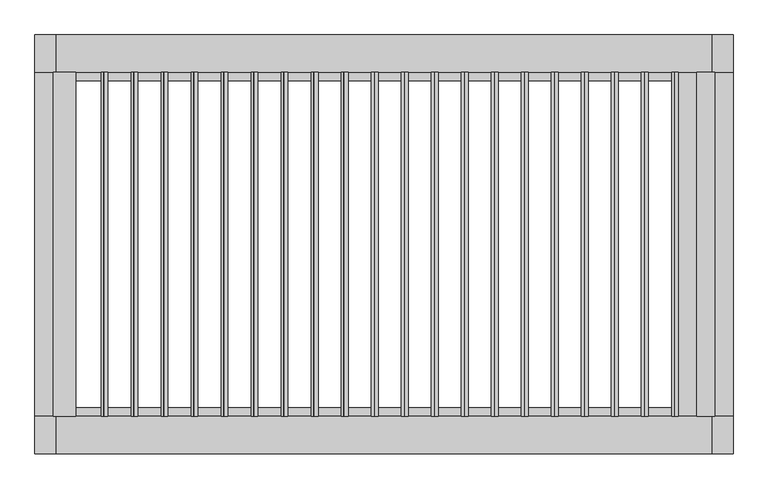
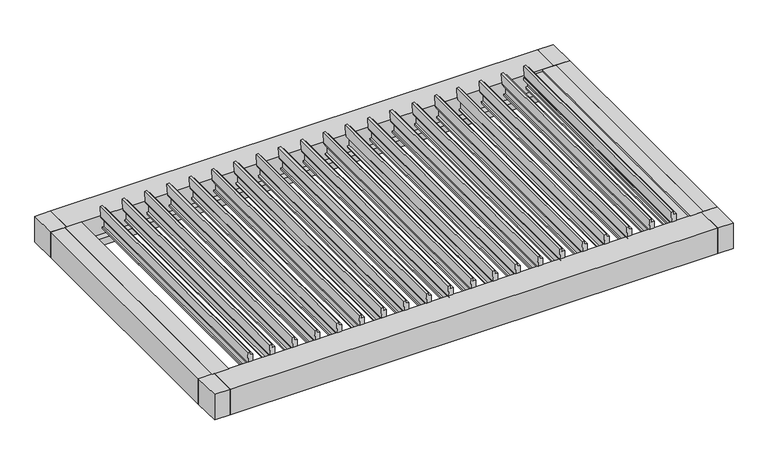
"""IFC4 building model written with IfcOpenShell, lengths in millimetres: proxy geometry, Renson_Aero_Skye_Patio covers : Aero Skye - Single."""

from ifc_helpers import new_model, si_unit, point, frame, frame_2d, origin, place, context, project, spatial, polyline, circle_curve, trimmed, segment, composite_curve, outline, extrude, source, transform, mapped, element, save


def generic_models_4a002583(model_context):
    return source(origin(), model_context, "Body", "SweptSolid", [
        extrude(outline(composite_curve([segment(polyline([(69.449345, 1892.5320108), (71.8694547, 1864.8700309), (100.7047051, 1863.4849745), (97.2673741, 1843.9909012), (-12.7297408, 1849.2744415)]), True, "CONTINUOUS"), segment(trimmed(circle_curve(frame_2d((-12.0100689, 1864.2571673)), 15.0), [point((-12.7297408, 1849.2744415))], [point((-26.7821852, 1861.6524447))], False, "CARTESIAN"), True, "CONTINUOUS"), segment(polyline([(-26.7821852, 1861.6524447), (-30.1728765, 1880.8820108), (-117.9086525, 1880.8820108), (-120.9201099, 1863.8031872), (-136.1970804, 1864.5369927), (-138.6463271, 1892.5320108), (69.449345, 1892.5320108)]), True, "CONTINUOUS")], self_intersect=False)), frame((0.0, -1232.0, 0.0), z_axis=(0.0, 1.0, 0.0), x_axis=(0.0, 0.0, 1.0)), (0.0, 0.0, 1.0), 2464.0),
        extrude(outline(composite_curve([segment(polyline([(69.449345, 1677.5229121), (71.8694547, 1649.8609321), (100.7047051, 1648.4758757), (97.2673741, 1628.9818025), (-12.7297408, 1634.2653428)]), True, "CONTINUOUS"), segment(trimmed(circle_curve(frame_2d((-12.0100689, 1649.2480686)), 15.0), [point((-12.7297408, 1634.2653428))], [point((-26.7821852, 1646.6433459))], False, "CARTESIAN"), True, "CONTINUOUS"), segment(polyline([(-26.7821852, 1646.6433459), (-30.1728765, 1665.8729121), (-117.9086525, 1665.8729121), (-120.9201099, 1648.7940884), (-136.1970804, 1649.5278939), (-138.6463271, 1677.5229121), (69.449345, 1677.5229121)]), True, "CONTINUOUS")], self_intersect=False)), frame((0.0, -1232.0, 0.0), z_axis=(0.0, 1.0, 0.0), x_axis=(0.0, 0.0, 1.0)), (0.0, 0.0, 1.0), 2464.0),
        extrude(outline(composite_curve([segment(polyline([(69.449345, 1462.5138133), (71.8694547, 1434.8518333), (100.7047051, 1433.4667769), (97.2673741, 1413.9727037), (-12.7297408, 1419.256244)]), True, "CONTINUOUS"), segment(trimmed(circle_curve(frame_2d((-12.0100689, 1434.2389698)), 15.0), [point((-12.7297408, 1419.256244))], [point((-26.7821852, 1431.6342472))], False, "CARTESIAN"), True, "CONTINUOUS"), segment(polyline([(-26.7821852, 1431.6342472), (-30.1728765, 1450.8638133), (-117.9086525, 1450.8638133), (-120.9201099, 1433.7849896), (-136.1970804, 1434.5187951), (-138.6463271, 1462.5138133), (69.449345, 1462.5138133)]), True, "CONTINUOUS")], self_intersect=False)), frame((0.0, -1232.0, 0.0), z_axis=(0.0, 1.0, 0.0), x_axis=(0.0, 0.0, 1.0)), (0.0, 0.0, 1.0), 2464.0),
        extrude(outline(composite_curve([segment(polyline([(69.449345, 1247.5047146), (71.8694547, 1219.8427346), (100.7047051, 1218.4576782), (97.2673741, 1198.9636049), (-12.7297408, 1204.2471453)]), True, "CONTINUOUS"), segment(trimmed(circle_curve(frame_2d((-12.0100689, 1219.2298711)), 15.0), [point((-12.7297408, 1204.2471453))], [point((-26.7821852, 1216.6251484))], False, "CARTESIAN"), True, "CONTINUOUS"), segment(polyline([(-26.7821852, 1216.6251484), (-30.1728765, 1235.8547145), (-117.9086525, 1235.8547145), (-120.9201099, 1218.7758909), (-136.1970804, 1219.5096964), (-138.6463271, 1247.5047146), (69.449345, 1247.5047146)]), True, "CONTINUOUS")], self_intersect=False)), frame((0.0, -1232.0, 0.0), z_axis=(0.0, 1.0, 0.0), x_axis=(0.0, 0.0, 1.0)), (0.0, 0.0, 1.0), 2464.0),
        extrude(outline(composite_curve([segment(polyline([(69.449345, 1032.4956158), (71.8694547, 1004.8336358), (100.7047051, 1003.4485794), (97.2673741, 983.9545062), (-12.7297408, 989.2380465)]), True, "CONTINUOUS"), segment(trimmed(circle_curve(frame_2d((-12.0100689, 1004.2207723)), 15.0), [point((-12.7297408, 989.2380465))], [point((-26.7821852, 1001.6160496))], False, "CARTESIAN"), True, "CONTINUOUS"), segment(polyline([(-26.7821852, 1001.6160496), (-30.1728765, 1020.8456158), (-117.9086525, 1020.8456158), (-120.9201099, 1003.7667921), (-136.1970804, 1004.5005976), (-138.6463271, 1032.4956158), (69.449345, 1032.4956158)]), True, "CONTINUOUS")], self_intersect=False)), frame((0.0, -1232.0, 0.0), z_axis=(0.0, 1.0, 0.0), x_axis=(0.0, 0.0, 1.0)), (0.0, 0.0, 1.0), 2464.0),
        extrude(outline(composite_curve([segment(polyline([(69.449345, 817.486517), (71.8694547, 789.8245371), (100.7047051, 788.4394807), (97.2673741, 768.9454074), (-12.7297408, 774.2289477)]), True, "CONTINUOUS"), segment(trimmed(circle_curve(frame_2d((-12.0100689, 789.2116735)), 15.0), [point((-12.7297408, 774.2289477))], [point((-26.7821852, 786.6069509))], False, "CARTESIAN"), True, "CONTINUOUS"), segment(polyline([(-26.7821852, 786.6069509), (-30.1728765, 805.836517), (-117.9086525, 805.836517), (-120.9201099, 788.7576933), (-136.1970804, 789.4914989), (-138.6463271, 817.486517), (69.449345, 817.486517)]), True, "CONTINUOUS")], self_intersect=False)), frame((0.0, -1232.0, 0.0), z_axis=(0.0, 1.0, 0.0), x_axis=(0.0, 0.0, 1.0)), (0.0, 0.0, 1.0), 2464.0),
        extrude(outline(composite_curve([segment(polyline([(69.449345, 602.4774183), (71.8694547, 574.8154383), (100.7047051, 573.4303819), (97.2673741, 553.9363087), (-12.7297408, 559.219849)]), True, "CONTINUOUS"), segment(trimmed(circle_curve(frame_2d((-12.0100689, 574.2025748)), 15.0), [point((-12.7297408, 559.219849))], [point((-26.7821852, 571.5978521))], False, "CARTESIAN"), True, "CONTINUOUS"), segment(polyline([(-26.7821852, 571.5978521), (-30.1728765, 590.8274183), (-117.9086525, 590.8274183), (-120.9201099, 573.7485946), (-136.1970804, 574.4824001), (-138.6463271, 602.4774183), (69.449345, 602.4774183)]), True, "CONTINUOUS")], self_intersect=False)), frame((0.0, -1232.0, 0.0), z_axis=(0.0, 1.0, 0.0), x_axis=(0.0, 0.0, 1.0)), (0.0, 0.0, 1.0), 2464.0),
        extrude(outline(composite_curve([segment(polyline([(69.449345, 387.4683195), (71.8694547, 359.8063395), (100.7047051, 358.4212831), (97.2673741, 338.9272099), (-12.7297408, 344.2107502)]), True, "CONTINUOUS"), segment(trimmed(circle_curve(frame_2d((-12.0100689, 359.193476)), 15.0), [point((-12.7297408, 344.2107502))], [point((-26.7821852, 356.5887533))], False, "CARTESIAN"), True, "CONTINUOUS"), segment(polyline([(-26.7821852, 356.5887533), (-30.1728765, 375.8183195), (-117.9086525, 375.8183195), (-120.9201099, 358.7394958), (-136.1970804, 359.4733013), (-138.6463271, 387.4683195), (69.449345, 387.4683195)]), True, "CONTINUOUS")], self_intersect=False)), frame((0.0, -1232.0, 0.0), z_axis=(0.0, 1.0, 0.0), x_axis=(0.0, 0.0, 1.0)), (0.0, 0.0, 1.0), 2464.0),
        extrude(outline(composite_curve([segment(polyline([(69.449345, 172.4592207), (71.8694547, 144.7972408), (100.7047051, 143.4121844), (97.2673741, 123.9181111), (-12.7297408, 129.2016514)]), True, "CONTINUOUS"), segment(trimmed(circle_curve(frame_2d((-12.0100689, 144.1843772)), 15.0), [point((-12.7297408, 129.2016514))], [point((-26.7821852, 141.5796546))], False, "CARTESIAN"), True, "CONTINUOUS"), segment(polyline([(-26.7821852, 141.5796546), (-30.1728765, 160.8092207), (-117.9086525, 160.8092207), (-120.9201099, 143.7303971), (-136.1970804, 144.4642026), (-138.6463271, 172.4592207), (69.449345, 172.4592207)]), True, "CONTINUOUS")], self_intersect=False)), frame((0.0, -1232.0, 0.0), z_axis=(0.0, 1.0, 0.0), x_axis=(0.0, 0.0, 1.0)), (0.0, 0.0, 1.0), 2464.0),
        extrude(outline(composite_curve([segment(polyline([(69.449345, -42.549878), (71.8694547, -70.211858), (100.7047051, -71.5969144), (97.2673741, -91.0909876), (-12.7297408, -85.8074473)]), True, "CONTINUOUS"), segment(trimmed(circle_curve(frame_2d((-12.0100689, -70.8247215)), 15.0), [point((-12.7297408, -85.8074473))], [point((-26.7821852, -73.4294442))], False, "CARTESIAN"), True, "CONTINUOUS"), segment(polyline([(-26.7821852, -73.4294442), (-30.1728765, -54.199878), (-117.9086525, -54.199878), (-120.9201099, -71.2787017), (-136.1970804, -70.5448962), (-138.6463271, -42.549878), (69.449345, -42.549878)]), True, "CONTINUOUS")], self_intersect=False)), frame((0.0, -1232.0, 0.0), z_axis=(0.0, 1.0, 0.0), x_axis=(0.0, 0.0, 1.0)), (0.0, 0.0, 1.0), 2464.0),
        extrude(outline(composite_curve([segment(polyline([(69.449345, -257.5589768), (71.8694547, -285.2209568), (100.7047051, -286.6060132), (97.2673741, -306.1000864), (-12.7297408, -300.8165461)]), True, "CONTINUOUS"), segment(trimmed(circle_curve(frame_2d((-12.0100689, -285.8338203)), 15.0), [point((-12.7297408, -300.8165461))], [point((-26.7821852, -288.438543))], False, "CARTESIAN"), True, "CONTINUOUS"), segment(polyline([(-26.7821852, -288.438543), (-30.1728765, -269.2089768), (-117.9086525, -269.2089768), (-120.9201099, -286.2878005), (-136.1970804, -285.553995), (-138.6463271, -257.5589768), (69.449345, -257.5589768)]), True, "CONTINUOUS")], self_intersect=False)), frame((0.0, -1232.0, 0.0), z_axis=(0.0, 1.0, 0.0), x_axis=(0.0, 0.0, 1.0)), (0.0, 0.0, 1.0), 2464.0),
        extrude(outline(composite_curve([segment(polyline([(69.449345, -472.5680756), (71.8694547, -500.2300555), (100.7047051, -501.6151119), (97.2673741, -521.1091852), (-12.7297408, -515.8256449)]), True, "CONTINUOUS"), segment(trimmed(circle_curve(frame_2d((-12.0100689, -500.8429191)), 15.0), [point((-12.7297408, -515.8256449))], [point((-26.7821852, -503.4476417))], False, "CARTESIAN"), True, "CONTINUOUS"), segment(polyline([(-26.7821852, -503.4476417), (-30.1728765, -484.2180756), (-117.9086525, -484.2180756), (-120.9201099, -501.2968992), (-136.1970804, -500.5630937), (-138.6463271, -472.5680756), (69.449345, -472.5680756)]), True, "CONTINUOUS")], self_intersect=False)), frame((0.0, -1232.0, 0.0), z_axis=(0.0, 1.0, 0.0), x_axis=(0.0, 0.0, 1.0)), (0.0, 0.0, 1.0), 2464.0),
        extrude(outline(composite_curve([segment(polyline([(69.449345, -687.5771743), (71.8694547, -715.2391543), (100.7047051, -716.6242107), (97.2673741, -736.1182839), (-12.7297408, -730.8347436)]), True, "CONTINUOUS"), segment(trimmed(circle_curve(frame_2d((-12.0100689, -715.8520178)), 15.0), [point((-12.7297408, -730.8347436))], [point((-26.7821852, -718.4567405))], False, "CARTESIAN"), True, "CONTINUOUS"), segment(polyline([(-26.7821852, -718.4567405), (-30.1728765, -699.2271743), (-117.9086525, -699.2271743), (-120.9201099, -716.305998), (-136.1970804, -715.5721925), (-138.6463271, -687.5771743), (69.449345, -687.5771743)]), True, "CONTINUOUS")], self_intersect=False)), frame((0.0, -1232.0, 0.0), z_axis=(0.0, 1.0, 0.0), x_axis=(0.0, 0.0, 1.0)), (0.0, 0.0, 1.0), 2464.0),
        extrude(outline(composite_curve([segment(polyline([(69.449345, -902.5862731), (71.8694547, -930.2482531), (100.7047051, -931.6333095), (97.2673741, -951.1273827), (-12.7297408, -945.8438424)]), True, "CONTINUOUS"), segment(trimmed(circle_curve(frame_2d((-12.0100689, -930.8611166)), 15.0), [point((-12.7297408, -945.8438424))], [point((-26.7821852, -933.4658392))], False, "CARTESIAN"), True, "CONTINUOUS"), segment(polyline([(-26.7821852, -933.4658392), (-30.1728765, -914.2362731), (-117.9086525, -914.2362731), (-120.9201099, -931.3150968), (-136.1970804, -930.5812913), (-138.6463271, -902.5862731), (69.449345, -902.5862731)]), True, "CONTINUOUS")], self_intersect=False)), frame((0.0, -1232.0, 0.0), z_axis=(0.0, 1.0, 0.0), x_axis=(0.0, 0.0, 1.0)), (0.0, 0.0, 1.0), 2464.0),
        extrude(outline(composite_curve([segment(polyline([(69.449345, -1117.5953718), (71.8694547, -1145.2573518), (100.7047051, -1146.6424082), (97.2673741, -1166.1364815), (-12.7297408, -1160.8529411)]), True, "CONTINUOUS"), segment(trimmed(circle_curve(frame_2d((-12.0100689, -1145.8702153)), 15.0), [point((-12.7297408, -1160.8529411))], [point((-26.7821852, -1148.474938))], False, "CARTESIAN"), True, "CONTINUOUS"), segment(polyline([(-26.7821852, -1148.474938), (-30.1728765, -1129.2453719), (-117.9086525, -1129.2453719), (-120.9201099, -1146.3241955), (-136.1970804, -1145.59039), (-138.6463271, -1117.5953718), (69.449345, -1117.5953718)]), True, "CONTINUOUS")], self_intersect=False)), frame((0.0, -1232.0, 0.0), z_axis=(0.0, 1.0, 0.0), x_axis=(0.0, 0.0, 1.0)), (0.0, 0.0, 1.0), 2464.0),
        extrude(outline(composite_curve([segment(polyline([(69.449345, -1332.6044706), (71.8694547, -1360.2664506), (100.7047051, -1361.651507), (97.2673741, -1381.1455802), (-12.7297408, -1375.8620399)]), True, "CONTINUOUS"), segment(trimmed(circle_curve(frame_2d((-12.0100689, -1360.8793141)), 15.0), [point((-12.7297408, -1375.8620399))], [point((-26.7821852, -1363.4840368))], False, "CARTESIAN"), True, "CONTINUOUS"), segment(polyline([(-26.7821852, -1363.4840368), (-30.1728765, -1344.2544706), (-117.9086525, -1344.2544706), (-120.9201099, -1361.3332943), (-136.1970804, -1360.5994888), (-138.6463271, -1332.6044706), (69.449345, -1332.6044706)]), True, "CONTINUOUS")], self_intersect=False)), frame((0.0, -1232.0, 0.0), z_axis=(0.0, 1.0, 0.0), x_axis=(0.0, 0.0, 1.0)), (0.0, 0.0, 1.0), 2464.0),
        extrude(outline(composite_curve([segment(polyline([(69.449345, -1547.6135694), (71.8694547, -1575.2755493), (100.7047051, -1576.6606057), (97.2673741, -1596.154679), (-12.7297408, -1590.8711387)]), True, "CONTINUOUS"), segment(trimmed(circle_curve(frame_2d((-12.0100689, -1575.8884129)), 15.0), [point((-12.7297408, -1590.8711387))], [point((-26.7821852, -1578.4931355))], False, "CARTESIAN"), True, "CONTINUOUS"), segment(polyline([(-26.7821852, -1578.4931355), (-30.1728765, -1559.2635694), (-117.9086525, -1559.2635694), (-120.9201099, -1576.3423931), (-136.1970804, -1575.6085875), (-138.6463271, -1547.6135694), (69.449345, -1547.6135694)]), True, "CONTINUOUS")], self_intersect=False)), frame((0.0, -1232.0, 0.0), z_axis=(0.0, 1.0, 0.0), x_axis=(0.0, 0.0, 1.0)), (0.0, 0.0, 1.0), 2464.0),
        extrude(outline(composite_curve([segment(polyline([(69.449345, -1762.6226681), (71.8694547, -1790.2846481), (100.7047051, -1791.6697045), (97.2673741, -1811.1637777), (-12.7297408, -1805.8802374)]), True, "CONTINUOUS"), segment(trimmed(circle_curve(frame_2d((-12.0100689, -1790.8975116)), 15.0), [point((-12.7297408, -1805.8802374))], [point((-26.7821852, -1793.5022343))], False, "CARTESIAN"), True, "CONTINUOUS"), segment(polyline([(-26.7821852, -1793.5022343), (-30.1728765, -1774.2726681), (-117.9086525, -1774.2726681), (-120.9201099, -1791.3514918), (-136.1970804, -1790.6176863), (-138.6463271, -1762.6226681), (69.449345, -1762.6226681)]), True, "CONTINUOUS")], self_intersect=False)), frame((0.0, -1232.0, 0.0), z_axis=(0.0, 1.0, 0.0), x_axis=(0.0, 0.0, 1.0)), (0.0, 0.0, 1.0), 2464.0),
        extrude(outline(composite_curve([segment(polyline([(69.449345, 2107.5411096), (71.8694547, 2079.8791296), (100.7047051, 2078.4940732), (97.2673741, 2059.0), (-12.7297408, 2064.2835403)]), True, "CONTINUOUS"), segment(trimmed(circle_curve(frame_2d((-12.0100689, 2079.2662661)), 15.0), [point((-12.7297408, 2064.2835403))], [point((-26.7821852, 2076.6615434))], False, "CARTESIAN"), True, "CONTINUOUS"), segment(polyline([(-26.7821852, 2076.6615434), (-30.1728765, 2095.8911096), (-117.9086525, 2095.8911096), (-120.9201099, 2078.8122859), (-136.1970804, 2079.5460914), (-138.6463271, 2107.5411096), (69.449345, 2107.5411096)]), True, "CONTINUOUS")], self_intersect=False)), frame((0.0, -1232.0, 0.0), z_axis=(0.0, 1.0, 0.0), x_axis=(0.0, 0.0, 1.0)), (0.0, 0.0, 1.0), 2464.0),
        extrude(outline(composite_curve([segment(polyline([(69.449345, -1977.6317669), (71.8694547, -2005.2937469), (100.7047051, -2006.6788033), (97.2673741, -2026.1728765), (-12.7297408, -2020.8893362)]), True, "CONTINUOUS"), segment(trimmed(circle_curve(frame_2d((-12.0100689, -2005.9066104)), 15.0), [point((-12.7297408, -2020.8893362))], [point((-26.7821852, -2008.5113331))], False, "CARTESIAN"), True, "CONTINUOUS"), segment(polyline([(-26.7821852, -2008.5113331), (-30.1728765, -1989.2817669), (-117.9086525, -1989.2817669), (-120.9201099, -2006.3605906), (-136.1970804, -2005.6267851), (-138.6463271, -1977.6317669), (69.449345, -1977.6317669)]), True, "CONTINUOUS")], self_intersect=False)), frame((0.0, -1232.0, 0.0), z_axis=(0.0, 1.0, 0.0), x_axis=(0.0, 0.0, 1.0)), (0.0, 0.0, 1.0), 2464.0),
        extrude(outline(polyline([(-63.35, 2369.0), (0.0, 2369.0), (0.0, 2239.5), (-20.0, 2239.5), (-20.0, 2059.0), (-44.0, 2059.0), (-44.0, 2209.0), (-63.35, 2209.0), (-63.35, 2369.0)])), frame((0.0, -1232.0, 0.0), z_axis=(0.0, 1.0, 0.0), x_axis=(0.0, 0.0, 1.0)), (0.0, 0.0, 1.0), 2464.0),
        extrude(outline(polyline([(0.0, -2209.0), (0.0, -2369.0), (-44.0, -2369.0), (-44.0, -2236.3193336), (-10.8283397, -2233.4171894), (-9.655498, -2209.0), (0.0, -2209.0)])), frame((0.0, -1232.0, 0.0), z_axis=(0.0, 1.0, 0.0), x_axis=(0.0, 0.0, 1.0)), (0.0, 0.0, 1.0), 2464.0),
        extrude(outline(polyline([(2500.0, -1500.0), (2350.0, -1500.0), (2350.0, -1232.0), (2500.0, -1232.0), (2500.0, -1500.0)])), frame((0.0, 0.0, -260.0), z_axis=(0.0, 0.0, 1.0), x_axis=(1.0, 0.0, 0.0)), (0.0, 0.0, 1.0), 260.0),
        extrude(outline(polyline([(-2500.0, -1500.0), (-2500.0, -1232.0), (-2350.0, -1232.0), (-2350.0, -1500.0), (-2500.0, -1500.0)])), frame((0.0, 0.0, -260.0), z_axis=(0.0, 0.0, 1.0), x_axis=(1.0, 0.0, 0.0)), (0.0, 0.0, 1.0), 260.0),
        extrude(outline(polyline([(-2350.0, 1232.0), (-2500.0, 1232.0), (-2500.0, 1500.0), (-2350.0, 1500.0), (-2350.0, 1232.0)])), frame((0.0, 0.0, -260.0), z_axis=(0.0, 0.0, 1.0), x_axis=(1.0, 0.0, 0.0)), (0.0, 0.0, 1.0), 260.0),
        extrude(outline(polyline([(2500.0, 1500.0), (2500.0, 1232.0), (2350.0, 1232.0), (2350.0, 1500.0), (2500.0, 1500.0)])), frame((0.0, 0.0, -260.0), z_axis=(0.0, 0.0, 1.0), x_axis=(1.0, 0.0, 0.0)), (0.0, 0.0, 1.0), 260.0),
        extrude(outline(polyline([(-1232.0, -188.0), (-1170.0, -188.0), (-1170.0, -260.0), (-1500.0, -260.0), (-1500.0, 0.0), (-1232.0, 0.0), (-1232.0, -188.0)])), frame((-2350.0, 0.0, 0.0), z_axis=(1.0, 0.0, 0.0), x_axis=(0.0, 1.0, 0.0)), (0.0, 0.0, 1.0), 4700.0),
        extrude(outline(polyline([(1232.0, -188.0), (1232.0, 0.0), (1500.0, 0.0), (1500.0, -260.0), (1170.0, -260.0), (1170.0, -188.0), (1232.0, -188.0)])), frame((-2350.0, 0.0, 0.0), z_axis=(1.0, 0.0, 0.0), x_axis=(0.0, 1.0, 0.0)), (0.0, 0.0, 1.0), 4700.0),
        extrude(outline(polyline([(-64.0, 2369.0), (-64.0, 2350.0), (-260.0, 2350.0), (-260.0, 2500.0), (0.0, 2500.0), (0.0, 2369.0), (-64.0, 2369.0)])), frame((0.0, -1232.0, 0.0), z_axis=(0.0, 1.0, 0.0), x_axis=(0.0, 0.0, 1.0)), (0.0, 0.0, 1.0), 2464.0),
        extrude(outline(polyline([(-64.0, -2369.0), (0.0, -2369.0), (0.0, -2500.0), (-260.0, -2500.0), (-260.0, -2350.0), (-64.0, -2350.0), (-64.0, -2369.0)])), frame((0.0, -1232.0, 0.0), z_axis=(0.0, 1.0, 0.0), x_axis=(0.0, 0.0, 1.0)), (0.0, 0.0, 1.0), 2464.0),
    ])


if __name__ == "__main__":
    model = new_model("IFC4")
    model_context = context("Model", 3, world=origin())
    ifc_project = project(units=[si_unit("LENGTHUNIT", "METRE", prefix="MILLI")], contexts=[model_context])
    site = spatial("IfcSite", under=ifc_project)
    building = spatial("IfcBuilding", under=site)
    placement = place(None, origin())
    generic_models_shape = generic_models_4a002583(model_context)
    element("IfcBuildingElementProxy", 1, Name="Renson_Aero_Skye_Patio covers : Aero Skye - Single", ObjectType="Renson_Aero_Skye_Patio covers : Aero Skye - Single", at=placement, inside=building, context=model_context, shape_type="MappedRepresentation", body=[
        mapped(generic_models_shape, transform((0.0, 0.0, 0.0), x_axis=(1.0, 0.0, 0.0), y_axis=(0.0, 1.0, 0.0), z_axis=(0.0, 0.0, 1.0))),
    ])
    save(model, "model.ifc")
